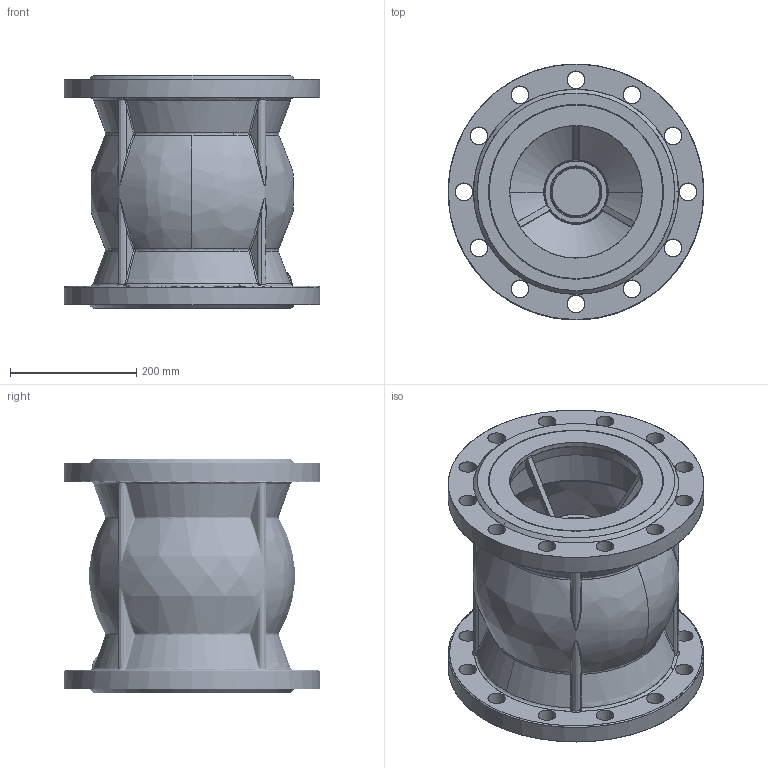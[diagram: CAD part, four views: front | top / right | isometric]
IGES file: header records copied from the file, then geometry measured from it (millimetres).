
Start section: SolidWorks IGES file using analytic representation for surfaces
Global section: file name: C:\Users\Administrator\Desktop\temp\0.IGS; native system: SolidWorks 2015; preprocessor: SolidWorks 2015; author: Administrator; date: 170405.213240; units: millimetre
Bounding box: 405 x 405 x 370 mm (x, y, z)
Surface area: 1628435.3 mm2 (no closed solid volume)
Topology: 0 solids, 0 shells, 697 faces, 9372 edges, 9341 vertices
Faces by surface type: bspline 498, revolution 199
